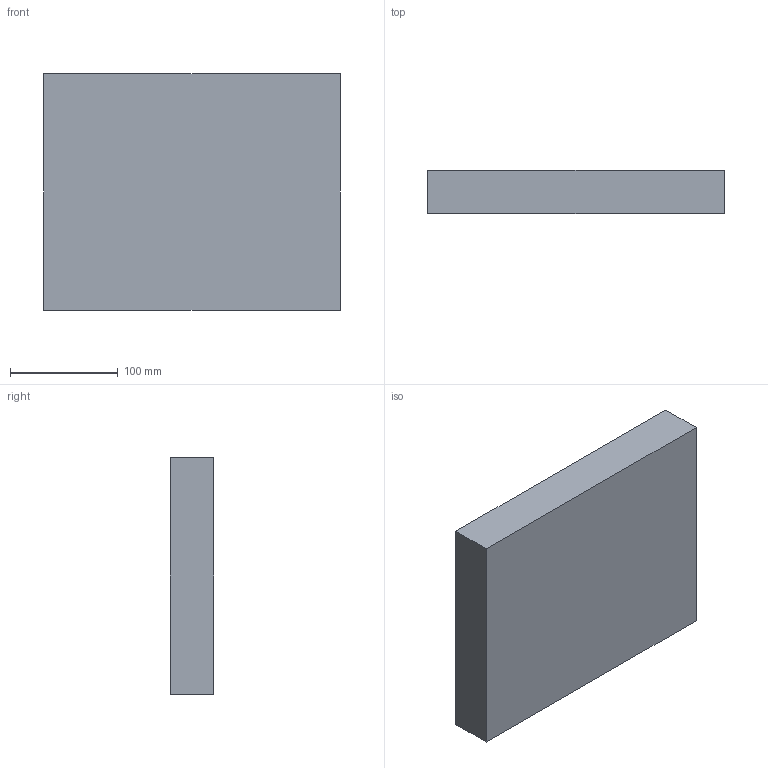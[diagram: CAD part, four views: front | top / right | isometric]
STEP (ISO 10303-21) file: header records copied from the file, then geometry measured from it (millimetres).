
FILE_DESCRIPTION (( 'STEP AP203' ), '1' );
FILE_NAME ('lid inside type 1000.STEP', '2013-07-04T13:02:54', ( 'Master' ), ( '' ), 'SwSTEP 2.0', 'SolidWorks 2013', '' );
FILE_SCHEMA (( 'CONFIG_CONTROL_DESIGN' ));
Length unit declared in the file: millimetre
Products named in the file (1): lid inside type 1000
Bounding box: 276.08 x 40 x 220 mm (x, y, z)
Volume: 1228185.4 mm3; surface area: 180682.4 mm2
Topology: 1 solids, 1 shells, 103 faces, 240 edges, 148 vertices
Faces by surface type: bspline 72, plane 31
Entity records: 4755 total; most frequent: CARTESIAN_POINT 3140, ORIENTED_EDGE 480, EDGE_CURVE 240, VERTEX_POINT 148, DIRECTION 120, EDGE_LOOP 112, FACE_OUTER_BOUND 103, ADVANCED_FACE 103
